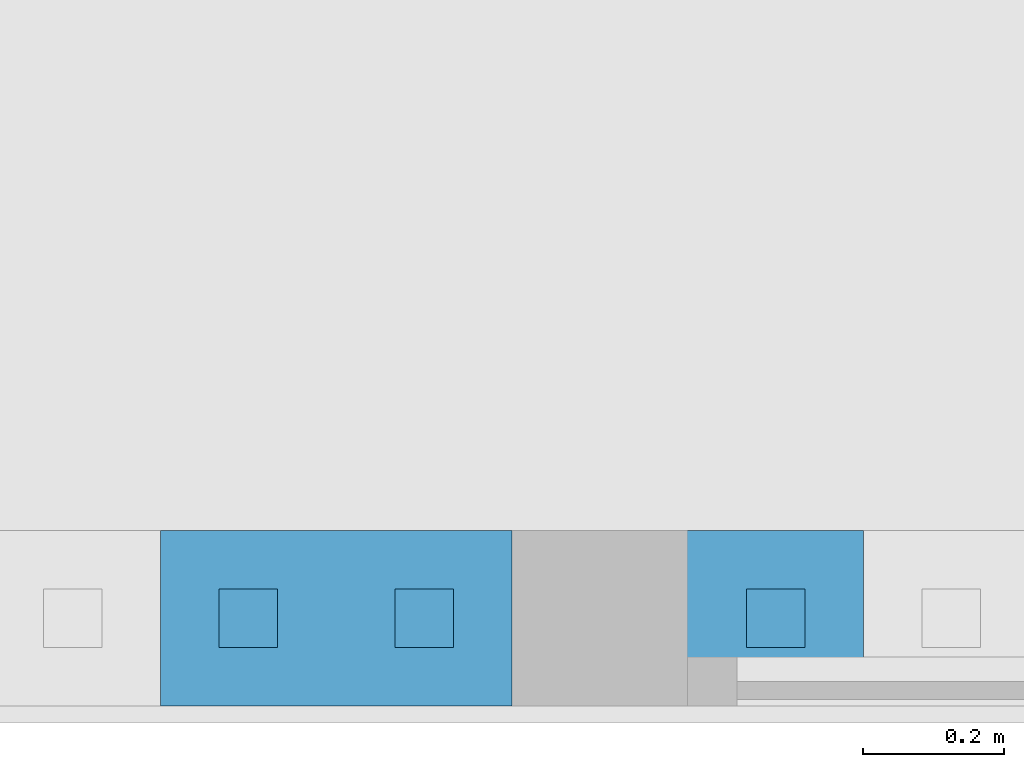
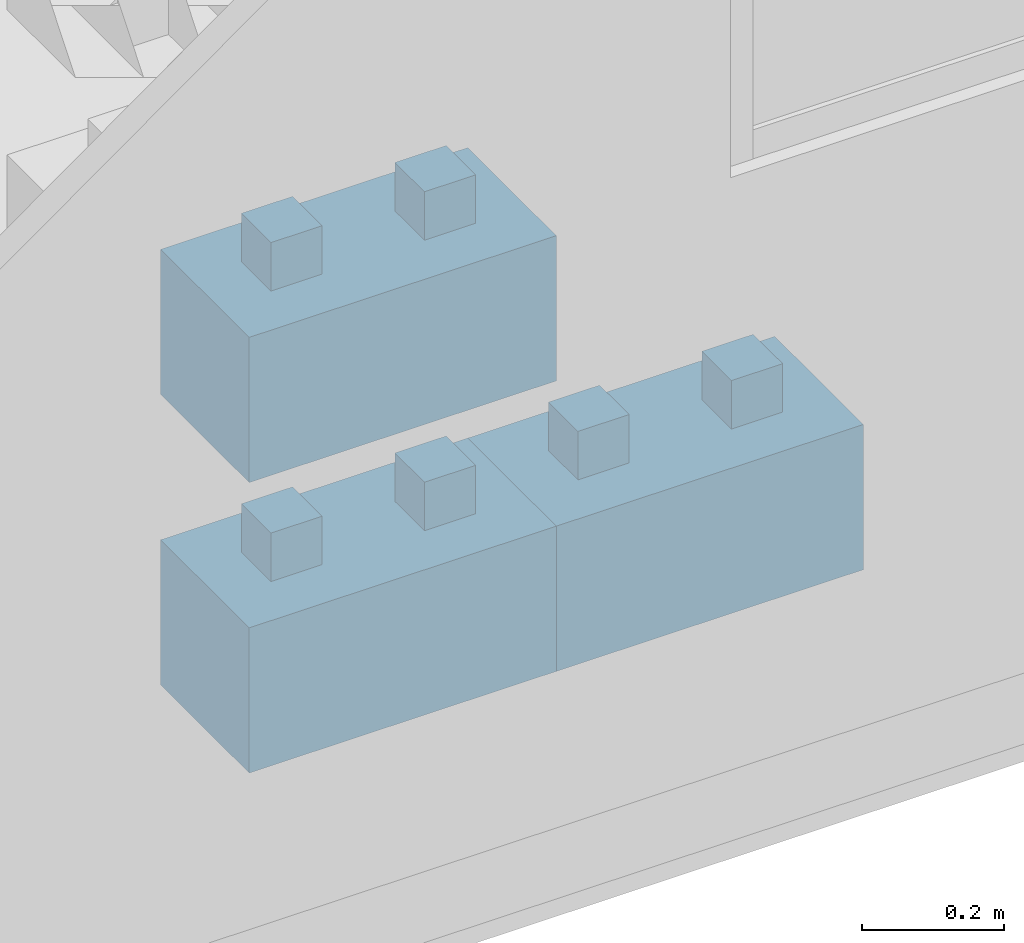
# One storey, part 2 of 9: 3 walls.
"""IFC4 building model written with IfcOpenShell, lengths in centimetres."""

from ifc_helpers import new_model, entity, si_unit, converted_unit, direction, frame, origin, place, context, subcontext, project, spatial, indexed_curve, outline, extrude, material, type_object, element, save


model = new_model("IFC4")

# Units and contexts
model_context = context("Model", 3, precision=0.001, world=origin(), true_north=direction((0.0, 1.0)))
body_context = subcontext(model_context, "Body", "Model", "MODEL_VIEW")
ifc_project = project(units=[si_unit("LENGTHUNIT", "METRE", prefix="CENTI"), si_unit("AREAUNIT", "SQUARE_METRE"), si_unit("VOLUMEUNIT", "CUBIC_METRE"), converted_unit("PLANEANGLEUNIT", "DEGREE", entity("IfcPlaneAngleMeasure", 0.017453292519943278), si_unit("PLANEANGLEUNIT", "RADIAN"), dimensions=[0, 0, 0, 0, 0, 0, 0])], contexts=[model_context])

# Site, building, storey
site_placement = place(None, origin())
site = spatial("IfcSite", under=ifc_project, at=site_placement, Name="Default", CompositionType="ELEMENT")
building_placement = place(site_placement, origin())
building = spatial("IfcBuilding", under=site, at=building_placement, CompositionType="ELEMENT")
storey_placement = place(building_placement, frame((0.0, 0.0, -4.0)))
storey = spatial("IfcBuildingStorey", under=building, at=storey_placement, Name="L00__ABOVE Slab", CompositionType="ELEMENT", Elevation=-4.000000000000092)

# Walls
ifc_material = material(Name="Miscellaneous__Timber Block__Triqbriq, X", Category="Miscellaneous")
wall_type = type_object("IfcWallType", Name="Columns : wll_s__TIMBER BLOCK__Triqbriq, Full Width__wp : WS25", PredefinedType="SOLIDWALL", material=ifc_material)
wall_1_placement = place(storey_placement, frame((2931.828914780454, 2128.520030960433, 75.0)))
element("IfcWall", 1, at=wall_1_placement, inside=storey, type_object=wall_type, material=ifc_material, Name="Columns : wll_s__TIMBER BLOCK__Triqbriq, Full Width__wp : WS25", PredefinedType="SOLIDWALL", context=body_context, shape_type="SweptSolid", body=[
    extrude(outline(indexed_curve([(-4.166666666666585, -4.166666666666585), (4.166666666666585, -4.166666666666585), (4.166666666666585, 4.166666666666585), (-4.166666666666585, 4.166666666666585), (-4.166666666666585, -4.166666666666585)], self_intersect=False)), frame((37.50000000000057, 12.500000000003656, 16.66666666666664), z_axis=(0.0, 0.0, 1.0), x_axis=(0.0, 1.0, 0.0)), (0.0, 0.0, 1.0), 16.666666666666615),
    extrude(outline(indexed_curve([(-4.166666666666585, -4.166666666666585), (4.166666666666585, -4.166666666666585), (4.166666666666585, 4.166666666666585), (-4.166666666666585, 4.166666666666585), (-4.166666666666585, -4.166666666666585)], self_intersect=False)), frame((12.500000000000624, 12.500000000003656, 16.666666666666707), z_axis=(0.0, 0.0, 1.0), x_axis=(0.0, 1.0, 0.0)), (0.0, 0.0, 1.0), 16.666666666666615),
    extrude(outline(indexed_curve([(-4.166666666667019, -4.166666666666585), (4.166666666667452, -4.166666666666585), (4.166666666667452, 4.166666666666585), (-4.166666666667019, 4.166666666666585), (-4.166666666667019, -4.166666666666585)], self_intersect=False)), frame((45.83333333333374, 20.833333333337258, 8.333333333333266), z_axis=(0.0, 0.0, 1.0), x_axis=(0.0, 1.0, 0.0)), (0.0, 0.0, 1.0), 8.333333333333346),
    extrude(outline(indexed_curve([(-4.166666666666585, -4.166666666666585), (4.166666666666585, -4.166666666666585), (4.166666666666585, 4.166666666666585), (-4.166666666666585, 4.166666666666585), (-4.166666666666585, -4.166666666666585)], self_intersect=False)), frame((45.83333333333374, 4.166666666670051, 8.333333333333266), z_axis=(0.0, 0.0, 1.0), x_axis=(0.0, 1.0, 0.0)), (0.0, 0.0, 1.0), 8.333333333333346),
    extrude(outline(indexed_curve([(-4.166666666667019, -4.166666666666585), (4.166666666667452, -4.166666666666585), (4.166666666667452, 4.166666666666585), (-4.166666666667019, 4.166666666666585), (-4.166666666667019, -4.166666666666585)], self_intersect=False)), frame((4.166666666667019, 20.833333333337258, 8.333333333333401), z_axis=(0.0, 0.0, 1.0), x_axis=(0.0, 1.0, 0.0)), (0.0, 0.0, 1.0), 8.333333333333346),
    extrude(outline(indexed_curve([(-4.166666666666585, -4.166666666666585), (4.166666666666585, -4.166666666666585), (4.166666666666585, 4.166666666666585), (-4.166666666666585, 4.166666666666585), (-4.166666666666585, -4.166666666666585)], self_intersect=False)), frame((4.166666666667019, 4.166666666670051, 8.333333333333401), z_axis=(0.0, 0.0, 1.0), x_axis=(0.0, 1.0, 0.0)), (0.0, 0.0, 1.0), 8.333333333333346),
    extrude(outline(indexed_curve([(-4.166666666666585, -8.333333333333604), (4.166666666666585, -8.333333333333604), (4.166666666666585, 8.33333333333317), (-4.166666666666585, 8.33333333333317), (-4.166666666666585, -8.333333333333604)], self_intersect=False)), frame((25.0, 4.166666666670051, 8.333333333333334), z_axis=(0.0, 0.0, 1.0), x_axis=(0.0, 1.0, 0.0)), (0.0, 0.0, 1.0), 8.333333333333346),
    extrude(outline(indexed_curve([(-4.166666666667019, -8.333333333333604), (4.166666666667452, -8.333333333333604), (4.166666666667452, 8.33333333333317), (-4.166666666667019, 8.33333333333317), (-4.166666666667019, -8.333333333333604)], self_intersect=False)), frame((25.0, 20.833333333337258, 8.333333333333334), z_axis=(0.0, 0.0, 1.0), x_axis=(0.0, 1.0, 0.0)), (0.0, 0.0, 1.0), 8.333333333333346),
    extrude(outline(indexed_curve([(-4.166666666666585, -24.999999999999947), (4.166666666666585, -24.999999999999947), (4.166666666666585, 24.999999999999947), (-4.166666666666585, 24.999999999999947), (-4.166666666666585, -24.999999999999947)], self_intersect=False)), frame((25.0, 12.500000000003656, 8.333333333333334), z_axis=(0.0, 0.0, 1.0), x_axis=(0.0, 1.0, 0.0)), (0.0, 0.0, 1.0), 8.333333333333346),
    extrude(outline(indexed_curve([(-12.500000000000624, -4.166666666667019), (12.50000000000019, -4.166666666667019), (12.50000000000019, 4.166666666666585), (-12.500000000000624, 4.166666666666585), (-12.500000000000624, -4.166666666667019)], self_intersect=False)), frame((29.1666666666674, 12.50000000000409, 0.0), z_axis=(0.0, 0.0, 1.0), x_axis=(0.0, 1.0, 0.0)), (0.0, 0.0, 1.0), 8.333333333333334),
    extrude(outline(indexed_curve([(-12.500000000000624, -4.166666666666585), (12.50000000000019, -4.166666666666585), (12.50000000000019, 4.166666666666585), (-12.500000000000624, 4.166666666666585), (-12.500000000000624, -4.166666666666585)], self_intersect=False)), frame((20.833333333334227, 12.50000000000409, 0.0), z_axis=(0.0, 0.0, 1.0), x_axis=(0.0, 1.0, 0.0)), (0.0, 0.0, 1.0), 8.333333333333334),
    extrude(outline(indexed_curve([(-12.500000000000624, -4.166666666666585), (12.50000000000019, -4.166666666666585), (12.50000000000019, 4.166666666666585), (-12.500000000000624, 4.166666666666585), (-12.500000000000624, -4.166666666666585)], self_intersect=False)), frame((45.833333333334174, 12.50000000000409, 0.0), z_axis=(0.0, 0.0, 1.0), x_axis=(0.0, 1.0, 0.0)), (0.0, 0.0, 1.0), 8.333333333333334),
    extrude(outline(indexed_curve([(-12.500000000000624, -4.166666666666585), (12.50000000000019, -4.166666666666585), (12.50000000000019, 4.166666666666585), (-12.500000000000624, 4.166666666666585), (-12.500000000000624, -4.166666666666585)], self_intersect=False)), frame((4.166666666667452, 12.50000000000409, 0.0), z_axis=(0.0, 0.0, 1.0), x_axis=(0.0, 1.0, 0.0)), (0.0, 0.0, 1.0), 8.333333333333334),
    extrude(outline(indexed_curve([(-4.166666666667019, -4.166666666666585), (4.166666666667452, -4.166666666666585), (4.166666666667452, 4.166666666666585), (-4.166666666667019, 4.166666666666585), (-4.166666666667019, -4.166666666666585)], self_intersect=False)), frame((37.500000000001, 20.833333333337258, 0.0), z_axis=(0.0, 0.0, 1.0), x_axis=(0.0, 1.0, 0.0)), (0.0, 0.0, 1.0), 24.999999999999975),
    extrude(outline(indexed_curve([(-4.166666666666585, -4.166666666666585), (4.166666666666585, -4.166666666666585), (4.166666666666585, 4.166666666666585), (-4.166666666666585, 4.166666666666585), (-4.166666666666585, -4.166666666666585)], self_intersect=False)), frame((37.500000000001, 4.166666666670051, 0.0), z_axis=(0.0, 0.0, 1.0), x_axis=(0.0, 1.0, 0.0)), (0.0, 0.0, 1.0), 24.999999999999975),
    extrude(outline(indexed_curve([(-4.166666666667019, -4.166666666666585), (4.166666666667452, -4.166666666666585), (4.166666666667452, 4.166666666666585), (-4.166666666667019, 4.166666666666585), (-4.166666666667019, -4.166666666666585)], self_intersect=False)), frame((12.500000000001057, 20.833333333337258, 0.0), z_axis=(0.0, 0.0, 1.0), x_axis=(0.0, 1.0, 0.0)), (0.0, 0.0, 1.0), 24.999999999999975),
    extrude(outline(indexed_curve([(-4.166666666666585, -4.166666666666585), (4.166666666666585, -4.166666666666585), (4.166666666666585, 4.166666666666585), (-4.166666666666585, 4.166666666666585), (-4.166666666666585, -4.166666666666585)], self_intersect=False)), frame((12.500000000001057, 4.166666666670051, 0.0), z_axis=(0.0, 0.0, 1.0), x_axis=(0.0, 1.0, 0.0)), (0.0, 0.0, 1.0), 24.999999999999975),
    extrude(outline(indexed_curve([(-12.500000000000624, -4.166666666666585), (12.50000000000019, -4.166666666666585), (12.50000000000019, 4.166666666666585), (-12.500000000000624, 4.166666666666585), (-12.500000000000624, -4.166666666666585)], self_intersect=False)), frame((45.83333333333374, 12.50000000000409, 16.66666666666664), z_axis=(0.0, 0.0, 1.0), x_axis=(0.0, 1.0, 0.0)), (0.0, 0.0, 1.0), 8.333333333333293),
    extrude(outline(indexed_curve([(-12.500000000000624, -4.166666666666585), (12.50000000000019, -4.166666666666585), (12.50000000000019, 4.166666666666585), (-12.500000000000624, 4.166666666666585), (-12.500000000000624, -4.166666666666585)], self_intersect=False)), frame((29.1666666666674, 12.50000000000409, 16.666666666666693), z_axis=(0.0, 0.0, 1.0), x_axis=(0.0, 1.0, 0.0)), (0.0, 0.0, 1.0), 8.333333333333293),
    extrude(outline(indexed_curve([(-12.500000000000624, -4.166666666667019), (12.50000000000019, -4.166666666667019), (12.50000000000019, 4.166666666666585), (-12.500000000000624, 4.166666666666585), (-12.500000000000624, -4.166666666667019)], self_intersect=False)), frame((20.833333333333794, 12.50000000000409, 16.666666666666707), z_axis=(0.0, 0.0, 1.0), x_axis=(0.0, 1.0, 0.0)), (0.0, 0.0, 1.0), 8.333333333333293),
    extrude(outline(indexed_curve([(-12.500000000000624, -4.166666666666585), (12.50000000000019, -4.166666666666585), (12.50000000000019, 4.166666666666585), (-12.500000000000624, 4.166666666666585), (-12.500000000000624, -4.166666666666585)], self_intersect=False)), frame((4.166666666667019, 12.50000000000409, 16.66666666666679), z_axis=(0.0, 0.0, 1.0), x_axis=(0.0, 1.0, 0.0)), (0.0, 0.0, 1.0), 8.333333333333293),
])
wall_2_placement = place(storey_placement, frame((2981.8289147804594, 2128.520030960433, 25.0)))
element("IfcWall", 2, at=wall_2_placement, inside=storey, type_object=wall_type, material=ifc_material, Name="Columns : wll_s__TIMBER BLOCK__Triqbriq, Full Width__wp : WS25", PredefinedType="SOLIDWALL", context=body_context, shape_type="SweptSolid", body=[
    extrude(outline(indexed_curve([(-4.166666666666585, -4.166666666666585), (4.166666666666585, -4.166666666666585), (4.166666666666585, 4.166666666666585), (-4.166666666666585, 4.166666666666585), (-4.166666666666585, -4.166666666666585)], self_intersect=False)), frame((37.50000000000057, 12.500000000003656, 16.666666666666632), z_axis=(0.0, 0.0, 1.0), x_axis=(0.0, 1.0, 0.0)), (0.0, 0.0, 1.0), 16.666666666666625),
    extrude(outline(indexed_curve([(-4.166666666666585, -4.166666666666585), (4.166666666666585, -4.166666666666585), (4.166666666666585, 4.166666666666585), (-4.166666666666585, 4.166666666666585), (-4.166666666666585, -4.166666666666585)], self_intersect=False)), frame((12.500000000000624, 12.500000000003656, 16.666666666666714), z_axis=(0.0, 0.0, 1.0), x_axis=(0.0, 1.0, 0.0)), (0.0, 0.0, 1.0), 16.666666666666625),
    extrude(outline(indexed_curve([(-4.166666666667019, -4.166666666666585), (4.166666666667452, -4.166666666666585), (4.166666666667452, 4.166666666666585), (-4.166666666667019, 4.166666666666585), (-4.166666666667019, -4.166666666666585)], self_intersect=False)), frame((45.83333333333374, 20.833333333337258, 8.333333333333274), z_axis=(0.0, 0.0, 1.0), x_axis=(0.0, 1.0, 0.0)), (0.0, 0.0, 1.0), 8.333333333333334),
    extrude(outline(indexed_curve([(-4.166666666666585, -4.166666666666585), (4.166666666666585, -4.166666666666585), (4.166666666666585, 4.166666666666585), (-4.166666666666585, 4.166666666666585), (-4.166666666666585, -4.166666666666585)], self_intersect=False)), frame((45.83333333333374, 4.166666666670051, 8.333333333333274), z_axis=(0.0, 0.0, 1.0), x_axis=(0.0, 1.0, 0.0)), (0.0, 0.0, 1.0), 8.333333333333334),
    extrude(outline(indexed_curve([(-4.166666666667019, -4.166666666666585), (4.166666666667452, -4.166666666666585), (4.166666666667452, 4.166666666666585), (-4.166666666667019, 4.166666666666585), (-4.166666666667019, -4.166666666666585)], self_intersect=False)), frame((4.166666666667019, 20.833333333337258, 8.333333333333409), z_axis=(0.0, 0.0, 1.0), x_axis=(0.0, 1.0, 0.0)), (0.0, 0.0, 1.0), 8.333333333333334),
    extrude(outline(indexed_curve([(-4.166666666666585, -4.166666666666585), (4.166666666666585, -4.166666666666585), (4.166666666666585, 4.166666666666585), (-4.166666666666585, 4.166666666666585), (-4.166666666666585, -4.166666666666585)], self_intersect=False)), frame((4.166666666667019, 4.166666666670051, 8.333333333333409), z_axis=(0.0, 0.0, 1.0), x_axis=(0.0, 1.0, 0.0)), (0.0, 0.0, 1.0), 8.333333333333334),
    extrude(outline(indexed_curve([(-4.166666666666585, -8.33333333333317), (4.166666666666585, -8.33333333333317), (4.166666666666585, 8.333333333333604), (-4.166666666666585, 8.333333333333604), (-4.166666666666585, -8.33333333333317)], self_intersect=False)), frame((25.0, 4.166666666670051, 8.333333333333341), z_axis=(0.0, 0.0, 1.0), x_axis=(0.0, 1.0, 0.0)), (0.0, 0.0, 1.0), 8.333333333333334),
    extrude(outline(indexed_curve([(-4.166666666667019, -8.33333333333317), (4.166666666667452, -8.33333333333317), (4.166666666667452, 8.333333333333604), (-4.166666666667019, 8.333333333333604), (-4.166666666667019, -8.33333333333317)], self_intersect=False)), frame((25.0, 20.833333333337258, 8.333333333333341), z_axis=(0.0, 0.0, 1.0), x_axis=(0.0, 1.0, 0.0)), (0.0, 0.0, 1.0), 8.333333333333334),
    extrude(outline(indexed_curve([(-4.166666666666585, -24.999999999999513), (4.166666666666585, -24.999999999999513), (4.166666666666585, 25.00000000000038), (-4.166666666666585, 25.00000000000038), (-4.166666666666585, -24.999999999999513)], self_intersect=False)), frame((25.0, 12.500000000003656, 8.333333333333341), z_axis=(0.0, 0.0, 1.0), x_axis=(0.0, 1.0, 0.0)), (0.0, 0.0, 1.0), 8.333333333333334),
    extrude(outline(indexed_curve([(-12.500000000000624, -4.166666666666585), (12.50000000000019, -4.166666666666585), (12.50000000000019, 4.166666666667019), (-12.500000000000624, 4.166666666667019), (-12.500000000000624, -4.166666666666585)], self_intersect=False)), frame((29.166666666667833, 12.50000000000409, 0.0), z_axis=(0.0, 0.0, 1.0), x_axis=(0.0, 1.0, 0.0)), (0.0, 0.0, 1.0), 8.333333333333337),
    extrude(outline(indexed_curve([(-12.500000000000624, -4.166666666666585), (12.50000000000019, -4.166666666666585), (12.50000000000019, 4.166666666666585), (-12.500000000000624, 4.166666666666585), (-12.500000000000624, -4.166666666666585)], self_intersect=False)), frame((20.833333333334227, 12.50000000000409, 0.0), z_axis=(0.0, 0.0, 1.0), x_axis=(0.0, 1.0, 0.0)), (0.0, 0.0, 1.0), 8.333333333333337),
    extrude(outline(indexed_curve([(-12.500000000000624, -4.166666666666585), (12.50000000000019, -4.166666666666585), (12.50000000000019, 4.166666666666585), (-12.500000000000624, 4.166666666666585), (-12.500000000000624, -4.166666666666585)], self_intersect=False)), frame((45.833333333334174, 12.50000000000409, 0.0), z_axis=(0.0, 0.0, 1.0), x_axis=(0.0, 1.0, 0.0)), (0.0, 0.0, 1.0), 8.333333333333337),
    extrude(outline(indexed_curve([(-12.500000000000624, -4.166666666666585), (12.50000000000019, -4.166666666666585), (12.50000000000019, 4.166666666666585), (-12.500000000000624, 4.166666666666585), (-12.500000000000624, -4.166666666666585)], self_intersect=False)), frame((4.166666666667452, 12.50000000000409, 0.0), z_axis=(0.0, 0.0, 1.0), x_axis=(0.0, 1.0, 0.0)), (0.0, 0.0, 1.0), 8.333333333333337),
    extrude(outline(indexed_curve([(-4.166666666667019, -4.166666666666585), (4.166666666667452, -4.166666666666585), (4.166666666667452, 4.166666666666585), (-4.166666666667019, 4.166666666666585), (-4.166666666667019, -4.166666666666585)], self_intersect=False)), frame((37.500000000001, 20.833333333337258, 0.0), z_axis=(0.0, 0.0, 1.0), x_axis=(0.0, 1.0, 0.0)), (0.0, 0.0, 1.0), 24.999999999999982),
    extrude(outline(indexed_curve([(-4.166666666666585, -4.166666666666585), (4.166666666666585, -4.166666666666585), (4.166666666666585, 4.166666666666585), (-4.166666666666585, 4.166666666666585), (-4.166666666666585, -4.166666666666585)], self_intersect=False)), frame((37.500000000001, 4.166666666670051, 0.0), z_axis=(0.0, 0.0, 1.0), x_axis=(0.0, 1.0, 0.0)), (0.0, 0.0, 1.0), 24.999999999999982),
    extrude(outline(indexed_curve([(-4.166666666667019, -4.166666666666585), (4.166666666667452, -4.166666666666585), (4.166666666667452, 4.166666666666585), (-4.166666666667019, 4.166666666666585), (-4.166666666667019, -4.166666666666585)], self_intersect=False)), frame((12.500000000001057, 20.833333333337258, 0.0), z_axis=(0.0, 0.0, 1.0), x_axis=(0.0, 1.0, 0.0)), (0.0, 0.0, 1.0), 24.999999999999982),
    extrude(outline(indexed_curve([(-4.166666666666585, -4.166666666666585), (4.166666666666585, -4.166666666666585), (4.166666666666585, 4.166666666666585), (-4.166666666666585, 4.166666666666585), (-4.166666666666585, -4.166666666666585)], self_intersect=False)), frame((12.500000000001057, 4.166666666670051, 0.0), z_axis=(0.0, 0.0, 1.0), x_axis=(0.0, 1.0, 0.0)), (0.0, 0.0, 1.0), 24.999999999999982),
    extrude(outline(indexed_curve([(-12.500000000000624, -4.166666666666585), (12.50000000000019, -4.166666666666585), (12.50000000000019, 4.166666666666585), (-12.500000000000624, 4.166666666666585), (-12.500000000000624, -4.166666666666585)], self_intersect=False)), frame((45.83333333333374, 12.50000000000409, 16.666666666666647), z_axis=(0.0, 0.0, 1.0), x_axis=(0.0, 1.0, 0.0)), (0.0, 0.0, 1.0), 8.333333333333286),
    extrude(outline(indexed_curve([(-12.500000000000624, -4.166666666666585), (12.50000000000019, -4.166666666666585), (12.50000000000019, 4.166666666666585), (-12.500000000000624, 4.166666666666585), (-12.500000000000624, -4.166666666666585)], self_intersect=False)), frame((29.1666666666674, 12.50000000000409, 16.6666666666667), z_axis=(0.0, 0.0, 1.0), x_axis=(0.0, 1.0, 0.0)), (0.0, 0.0, 1.0), 8.333333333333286),
    extrude(outline(indexed_curve([(-12.500000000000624, -4.166666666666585), (12.50000000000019, -4.166666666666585), (12.50000000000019, 4.166666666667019), (-12.500000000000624, 4.166666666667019), (-12.500000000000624, -4.166666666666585)], self_intersect=False)), frame((20.833333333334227, 12.50000000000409, 16.66666666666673), z_axis=(0.0, 0.0, 1.0), x_axis=(0.0, 1.0, 0.0)), (0.0, 0.0, 1.0), 8.333333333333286),
    extrude(outline(indexed_curve([(-12.500000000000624, -4.166666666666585), (12.50000000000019, -4.166666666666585), (12.50000000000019, 4.166666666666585), (-12.500000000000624, 4.166666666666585), (-12.500000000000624, -4.166666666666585)], self_intersect=False)), frame((4.166666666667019, 12.50000000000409, 16.66666666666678), z_axis=(0.0, 0.0, 1.0), x_axis=(0.0, 1.0, 0.0)), (0.0, 0.0, 1.0), 8.333333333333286),
])
wall_3_placement = place(storey_placement, frame((2931.828914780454, 2128.520030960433, 25.0)))
element("IfcWall", 3, at=wall_3_placement, inside=storey, type_object=wall_type, material=ifc_material, Name="Columns : wll_s__TIMBER BLOCK__Triqbriq, Full Width__wp : WS25", PredefinedType="SOLIDWALL", context=body_context, shape_type="SweptSolid", body=[
    extrude(outline(indexed_curve([(-4.166666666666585, -4.166666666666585), (4.166666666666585, -4.166666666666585), (4.166666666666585, 4.166666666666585), (-4.166666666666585, 4.166666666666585), (-4.166666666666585, -4.166666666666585)], self_intersect=False)), frame((37.50000000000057, 12.500000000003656, 16.666666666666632), z_axis=(0.0, 0.0, 1.0), x_axis=(0.0, 1.0, 0.0)), (0.0, 0.0, 1.0), 16.666666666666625),
    extrude(outline(indexed_curve([(-4.166666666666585, -4.166666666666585), (4.166666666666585, -4.166666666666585), (4.166666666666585, 4.166666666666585), (-4.166666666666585, 4.166666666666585), (-4.166666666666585, -4.166666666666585)], self_intersect=False)), frame((12.500000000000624, 12.500000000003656, 16.666666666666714), z_axis=(0.0, 0.0, 1.0), x_axis=(0.0, 1.0, 0.0)), (0.0, 0.0, 1.0), 16.666666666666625),
    extrude(outline(indexed_curve([(-4.166666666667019, -4.166666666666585), (4.166666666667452, -4.166666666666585), (4.166666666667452, 4.166666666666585), (-4.166666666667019, 4.166666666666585), (-4.166666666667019, -4.166666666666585)], self_intersect=False)), frame((45.83333333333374, 20.833333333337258, 8.333333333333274), z_axis=(0.0, 0.0, 1.0), x_axis=(0.0, 1.0, 0.0)), (0.0, 0.0, 1.0), 8.333333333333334),
    extrude(outline(indexed_curve([(-4.166666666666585, -4.166666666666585), (4.166666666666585, -4.166666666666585), (4.166666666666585, 4.166666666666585), (-4.166666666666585, 4.166666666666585), (-4.166666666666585, -4.166666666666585)], self_intersect=False)), frame((45.83333333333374, 4.166666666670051, 8.333333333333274), z_axis=(0.0, 0.0, 1.0), x_axis=(0.0, 1.0, 0.0)), (0.0, 0.0, 1.0), 8.333333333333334),
    extrude(outline(indexed_curve([(-4.166666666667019, -4.166666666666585), (4.166666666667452, -4.166666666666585), (4.166666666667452, 4.166666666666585), (-4.166666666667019, 4.166666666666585), (-4.166666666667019, -4.166666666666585)], self_intersect=False)), frame((4.166666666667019, 20.833333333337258, 8.333333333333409), z_axis=(0.0, 0.0, 1.0), x_axis=(0.0, 1.0, 0.0)), (0.0, 0.0, 1.0), 8.333333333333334),
    extrude(outline(indexed_curve([(-4.166666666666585, -4.166666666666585), (4.166666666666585, -4.166666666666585), (4.166666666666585, 4.166666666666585), (-4.166666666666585, 4.166666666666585), (-4.166666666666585, -4.166666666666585)], self_intersect=False)), frame((4.166666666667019, 4.166666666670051, 8.333333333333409), z_axis=(0.0, 0.0, 1.0), x_axis=(0.0, 1.0, 0.0)), (0.0, 0.0, 1.0), 8.333333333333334),
    extrude(outline(indexed_curve([(-4.166666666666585, -8.333333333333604), (4.166666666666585, -8.333333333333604), (4.166666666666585, 8.33333333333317), (-4.166666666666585, 8.33333333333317), (-4.166666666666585, -8.333333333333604)], self_intersect=False)), frame((25.0, 4.166666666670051, 8.333333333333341), z_axis=(0.0, 0.0, 1.0), x_axis=(0.0, 1.0, 0.0)), (0.0, 0.0, 1.0), 8.333333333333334),
    extrude(outline(indexed_curve([(-4.166666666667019, -8.333333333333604), (4.166666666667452, -8.333333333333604), (4.166666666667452, 8.33333333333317), (-4.166666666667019, 8.33333333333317), (-4.166666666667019, -8.333333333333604)], self_intersect=False)), frame((25.0, 20.833333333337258, 8.333333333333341), z_axis=(0.0, 0.0, 1.0), x_axis=(0.0, 1.0, 0.0)), (0.0, 0.0, 1.0), 8.333333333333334),
    extrude(outline(indexed_curve([(-4.166666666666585, -24.999999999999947), (4.166666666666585, -24.999999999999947), (4.166666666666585, 24.999999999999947), (-4.166666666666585, 24.999999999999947), (-4.166666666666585, -24.999999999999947)], self_intersect=False)), frame((25.0, 12.500000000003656, 8.333333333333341), z_axis=(0.0, 0.0, 1.0), x_axis=(0.0, 1.0, 0.0)), (0.0, 0.0, 1.0), 8.333333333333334),
    extrude(outline(indexed_curve([(-12.500000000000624, -4.166666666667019), (12.50000000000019, -4.166666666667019), (12.50000000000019, 4.166666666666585), (-12.500000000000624, 4.166666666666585), (-12.500000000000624, -4.166666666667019)], self_intersect=False)), frame((29.1666666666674, 12.50000000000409, 0.0), z_axis=(0.0, 0.0, 1.0), x_axis=(0.0, 1.0, 0.0)), (0.0, 0.0, 1.0), 8.333333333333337),
    extrude(outline(indexed_curve([(-12.500000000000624, -4.166666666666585), (12.50000000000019, -4.166666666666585), (12.50000000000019, 4.166666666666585), (-12.500000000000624, 4.166666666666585), (-12.500000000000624, -4.166666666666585)], self_intersect=False)), frame((20.833333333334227, 12.50000000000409, 0.0), z_axis=(0.0, 0.0, 1.0), x_axis=(0.0, 1.0, 0.0)), (0.0, 0.0, 1.0), 8.333333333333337),
    extrude(outline(indexed_curve([(-12.500000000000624, -4.166666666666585), (12.50000000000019, -4.166666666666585), (12.50000000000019, 4.166666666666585), (-12.500000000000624, 4.166666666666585), (-12.500000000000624, -4.166666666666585)], self_intersect=False)), frame((45.833333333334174, 12.50000000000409, 0.0), z_axis=(0.0, 0.0, 1.0), x_axis=(0.0, 1.0, 0.0)), (0.0, 0.0, 1.0), 8.333333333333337),
    extrude(outline(indexed_curve([(-12.500000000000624, -4.166666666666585), (12.50000000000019, -4.166666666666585), (12.50000000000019, 4.166666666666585), (-12.500000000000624, 4.166666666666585), (-12.500000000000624, -4.166666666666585)], self_intersect=False)), frame((4.166666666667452, 12.50000000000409, 0.0), z_axis=(0.0, 0.0, 1.0), x_axis=(0.0, 1.0, 0.0)), (0.0, 0.0, 1.0), 8.333333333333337),
    extrude(outline(indexed_curve([(-4.166666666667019, -4.166666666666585), (4.166666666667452, -4.166666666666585), (4.166666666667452, 4.166666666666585), (-4.166666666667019, 4.166666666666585), (-4.166666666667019, -4.166666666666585)], self_intersect=False)), frame((37.500000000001, 20.833333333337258, 0.0), z_axis=(0.0, 0.0, 1.0), x_axis=(0.0, 1.0, 0.0)), (0.0, 0.0, 1.0), 24.999999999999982),
    extrude(outline(indexed_curve([(-4.166666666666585, -4.166666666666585), (4.166666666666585, -4.166666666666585), (4.166666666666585, 4.166666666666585), (-4.166666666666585, 4.166666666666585), (-4.166666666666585, -4.166666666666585)], self_intersect=False)), frame((37.500000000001, 4.166666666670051, 0.0), z_axis=(0.0, 0.0, 1.0), x_axis=(0.0, 1.0, 0.0)), (0.0, 0.0, 1.0), 24.999999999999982),
    extrude(outline(indexed_curve([(-4.166666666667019, -4.166666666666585), (4.166666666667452, -4.166666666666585), (4.166666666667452, 4.166666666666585), (-4.166666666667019, 4.166666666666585), (-4.166666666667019, -4.166666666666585)], self_intersect=False)), frame((12.500000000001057, 20.833333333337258, 0.0), z_axis=(0.0, 0.0, 1.0), x_axis=(0.0, 1.0, 0.0)), (0.0, 0.0, 1.0), 24.999999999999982),
    extrude(outline(indexed_curve([(-4.166666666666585, -4.166666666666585), (4.166666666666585, -4.166666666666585), (4.166666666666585, 4.166666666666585), (-4.166666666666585, 4.166666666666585), (-4.166666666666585, -4.166666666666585)], self_intersect=False)), frame((12.500000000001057, 4.166666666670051, 0.0), z_axis=(0.0, 0.0, 1.0), x_axis=(0.0, 1.0, 0.0)), (0.0, 0.0, 1.0), 24.999999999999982),
    extrude(outline(indexed_curve([(-12.500000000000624, -4.166666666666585), (12.50000000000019, -4.166666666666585), (12.50000000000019, 4.166666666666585), (-12.500000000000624, 4.166666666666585), (-12.500000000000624, -4.166666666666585)], self_intersect=False)), frame((45.83333333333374, 12.50000000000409, 16.666666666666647), z_axis=(0.0, 0.0, 1.0), x_axis=(0.0, 1.0, 0.0)), (0.0, 0.0, 1.0), 8.333333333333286),
    extrude(outline(indexed_curve([(-12.500000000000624, -4.166666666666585), (12.50000000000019, -4.166666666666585), (12.50000000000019, 4.166666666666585), (-12.500000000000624, 4.166666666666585), (-12.500000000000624, -4.166666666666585)], self_intersect=False)), frame((29.1666666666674, 12.50000000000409, 16.6666666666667), z_axis=(0.0, 0.0, 1.0), x_axis=(0.0, 1.0, 0.0)), (0.0, 0.0, 1.0), 8.333333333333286),
    extrude(outline(indexed_curve([(-12.500000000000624, -4.166666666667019), (12.50000000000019, -4.166666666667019), (12.50000000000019, 4.166666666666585), (-12.500000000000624, 4.166666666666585), (-12.500000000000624, -4.166666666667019)], self_intersect=False)), frame((20.833333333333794, 12.50000000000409, 16.66666666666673), z_axis=(0.0, 0.0, 1.0), x_axis=(0.0, 1.0, 0.0)), (0.0, 0.0, 1.0), 8.333333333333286),
    extrude(outline(indexed_curve([(-12.500000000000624, -4.166666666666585), (12.50000000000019, -4.166666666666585), (12.50000000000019, 4.166666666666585), (-12.500000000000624, 4.166666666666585), (-12.500000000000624, -4.166666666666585)], self_intersect=False)), frame((4.166666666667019, 12.50000000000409, 16.66666666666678), z_axis=(0.0, 0.0, 1.0), x_axis=(0.0, 1.0, 0.0)), (0.0, 0.0, 1.0), 8.333333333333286),
])

save(model, "model.ifc")
